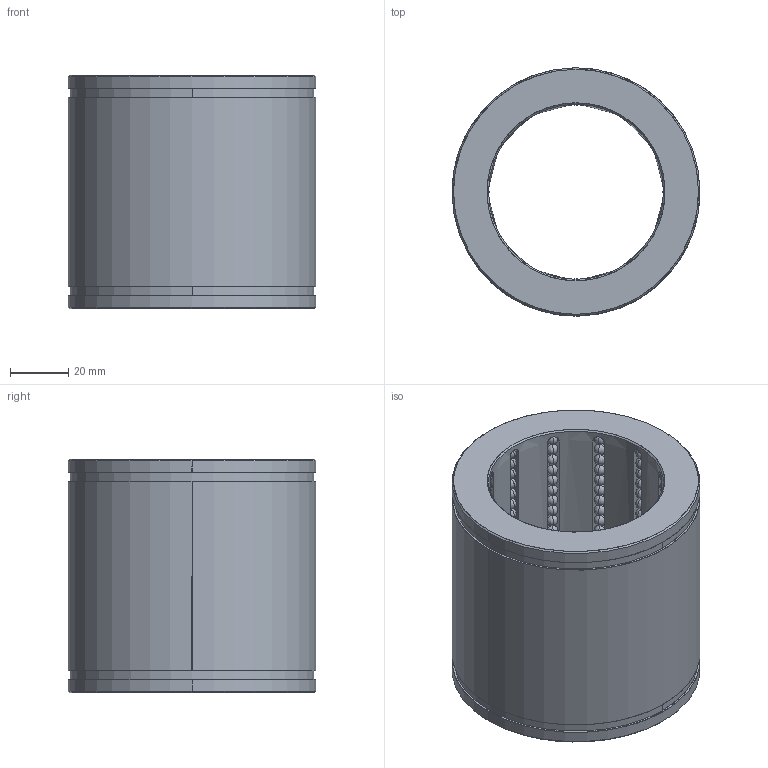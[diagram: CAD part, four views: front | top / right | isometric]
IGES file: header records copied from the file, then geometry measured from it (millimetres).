
Start section: START RECORD GO HERE.
Global section: file name: B8036080.igs; native system: DASSAULT SYSTEMES CATIA V5 R20 - www.3ds.com; preprocessor: CATIA Version 5 Release 20 ; author: Utente; organization: NB04-ASUS; date: 20200419.152555; units: millimetre
Bounding box: 85 x 85 x 80 mm (x, y, z)
Surface area: 60732.8 mm2 (no closed solid volume)
Topology: 0 solids, 0 shells, 958 faces, 3908 edges, 2180 vertices
Faces by surface type: revolution 916, plane 42
